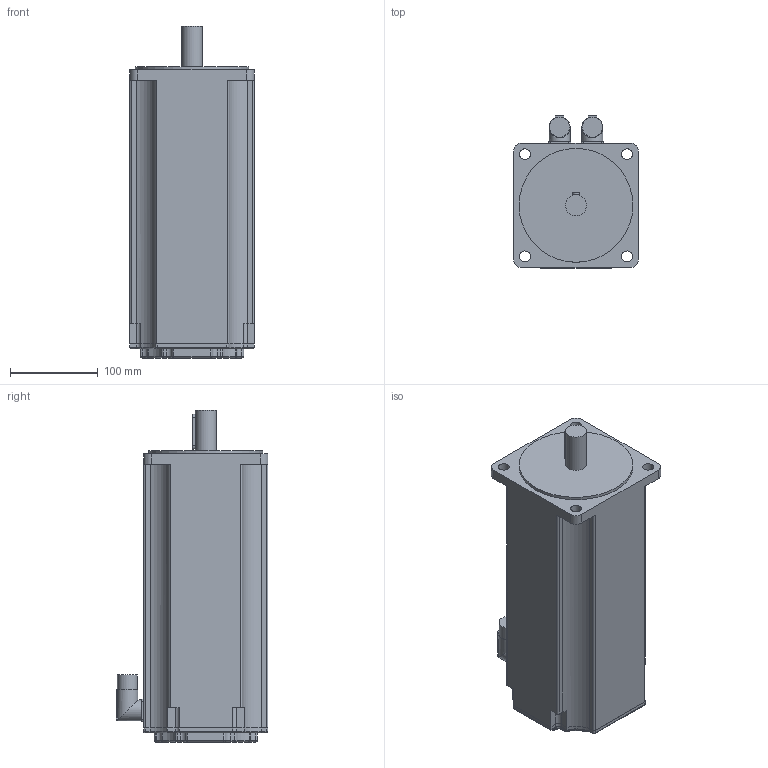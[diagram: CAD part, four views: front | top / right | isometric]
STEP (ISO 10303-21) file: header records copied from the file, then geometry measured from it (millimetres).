
FILE_DESCRIPTION(/* description */ (''),/* implementation_level */ '2;1');
FILE_NAME(/* name */ '\\Lafnas01\disegni\Archivi Lafert\3D\CAD 3D\MODELLI\Assiemi clienti\Serad\Modelli 3D Serad\B71Q\Encoder\Enc With Brake\B7126Qxx6BRx2033.ipt.stp',/* time_stamp */ '2015-09-07T10:52:19+02:00',/* author */ ('Pastrello Ylenia'),/* organization */ (''),/* preprocessor_version */ 'ST-DEVELOPER v15.6',/* originating_system */ 'Autodesk Inventor 2015',/* authorisation */ '');
FILE_SCHEMA (('AUTOMOTIVE_DESIGN { 1 0 10303 214 3 1 1 }'));
Length unit declared in the file: millimetre
Products named in the file (1): B7126Qxx6BRx2033
Bounding box: 142 x 173.5 x 379 mm (x, y, z)
Volume: 5785140.1 mm3; surface area: 224000.4 mm2
Topology: 1 solids, 1 shells, 251 faces, 624 edges, 386 vertices
Faces by surface type: cylinder 118, plane 93, torus 20, sphere 20
Full cylindrical faces by diameter (mm): 12.5 x4, 22.7 x2, 24 x3, 130 x1
Entity records: 7508 total; most frequent: CARTESIAN_POINT 1382, DIRECTION 1362, ORIENTED_EDGE 1220, EDGE_CURVE 610, AXIS2_PLACEMENT_3D 510, VERTEX_POINT 382, LINE 342, VECTOR 342
